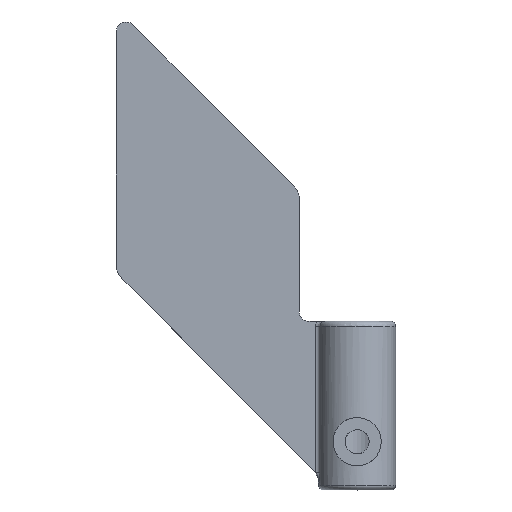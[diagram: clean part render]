
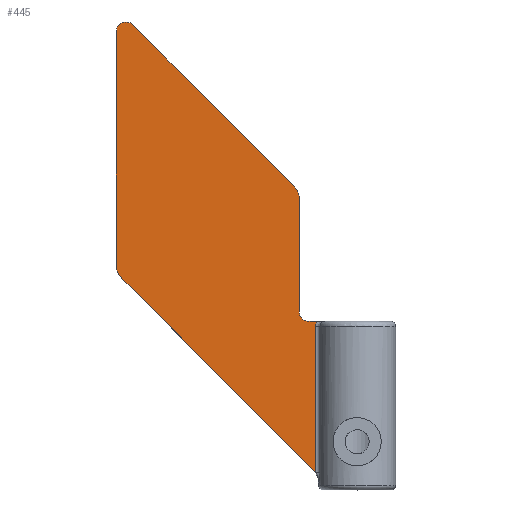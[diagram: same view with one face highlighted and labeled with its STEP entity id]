
A CAD part, top view. The second image highlights one B-rep face of the part: STEP entity #445.
In plain terms, the highlighted planar face has unit normal (0, 0, 1).
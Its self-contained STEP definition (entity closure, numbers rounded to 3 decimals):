
#24=PLANE('',#495);
#34=LINE('',#752,#59);
#35=LINE('',#788,#60);
#36=LINE('',#792,#61);
#37=LINE('',#796,#62);
#38=LINE('',#800,#63);
#39=LINE('',#804,#64);
#59=VECTOR('',#549,10.);
#60=VECTOR('',#552,10.);
#61=VECTOR('',#555,10.);
#62=VECTOR('',#558,10.);
#63=VECTOR('',#561,10.);
#64=VECTOR('',#564,10.);
#97=FACE_OUTER_BOUND('',#124,.T.);
#124=EDGE_LOOP('',(#314,#315,#316,#317,#318,#319,#320,#321,#322,#323,#324,
#325));
#155=B_SPLINE_CURVE_WITH_KNOTS('',3,(#743,#744,#745,#746),.UNSPECIFIED.,
 .F.,.F.,(4,4),(1.2,1.305),.UNSPECIFIED.);
#158=B_SPLINE_CURVE_WITH_KNOTS('',3,(#805,#806,#807,#808,#809,#810,#811),
 .UNSPECIFIED.,.F.,.F.,(4,3,4),(0.261,0.298,0.328),
 .UNSPECIFIED.);
#171=CIRCLE('',#496,2.);
#172=CIRCLE('',#497,4.);
#173=CIRCLE('',#498,2.);
#174=CIRCLE('',#499,4.);
#193=VERTEX_POINT('',#694);
#196=VERTEX_POINT('',#732);
#197=VERTEX_POINT('',#748);
#200=VERTEX_POINT('',#787);
#201=VERTEX_POINT('',#789);
#202=VERTEX_POINT('',#791);
#203=VERTEX_POINT('',#793);
#204=VERTEX_POINT('',#795);
#205=VERTEX_POINT('',#797);
#206=VERTEX_POINT('',#799);
#207=VERTEX_POINT('',#801);
#208=VERTEX_POINT('',#803);
#239=EDGE_CURVE('',#196,#193,#155,.T.);
#242=EDGE_CURVE('',#193,#197,#34,.T.);
#245=EDGE_CURVE('',#200,#196,#35,.T.);
#246=EDGE_CURVE('',#201,#200,#171,.T.);
#247=EDGE_CURVE('',#202,#201,#36,.T.);
#248=EDGE_CURVE('',#203,#202,#172,.T.);
#249=EDGE_CURVE('',#204,#203,#37,.T.);
#250=EDGE_CURVE('',#205,#204,#173,.T.);
#251=EDGE_CURVE('',#206,#205,#38,.T.);
#252=EDGE_CURVE('',#207,#206,#174,.T.);
#253=EDGE_CURVE('',#208,#207,#39,.T.);
#254=EDGE_CURVE('',#197,#208,#158,.T.);
#314=ORIENTED_EDGE('',*,*,#242,.F.);
#315=ORIENTED_EDGE('',*,*,#239,.F.);
#316=ORIENTED_EDGE('',*,*,#245,.F.);
#317=ORIENTED_EDGE('',*,*,#246,.F.);
#318=ORIENTED_EDGE('',*,*,#247,.F.);
#319=ORIENTED_EDGE('',*,*,#248,.F.);
#320=ORIENTED_EDGE('',*,*,#249,.F.);
#321=ORIENTED_EDGE('',*,*,#250,.F.);
#322=ORIENTED_EDGE('',*,*,#251,.F.);
#323=ORIENTED_EDGE('',*,*,#252,.F.);
#324=ORIENTED_EDGE('',*,*,#253,.F.);
#325=ORIENTED_EDGE('',*,*,#254,.F.);
#445=ADVANCED_FACE('',(#97),#24,.T.);
#495=AXIS2_PLACEMENT_3D('',#786,#550,#551);
#496=AXIS2_PLACEMENT_3D('',#790,#553,#554);
#497=AXIS2_PLACEMENT_3D('',#794,#556,#557);
#498=AXIS2_PLACEMENT_3D('',#798,#559,#560);
#499=AXIS2_PLACEMENT_3D('',#802,#562,#563);
#549=DIRECTION('',(0.,-1.,0.));
#550=DIRECTION('center_axis',(0.,0.,1.));
#551=DIRECTION('ref_axis',(1.,0.,0.));
#552=DIRECTION('',(1.,0.,0.));
#553=DIRECTION('center_axis',(0.,0.,1.));
#554=DIRECTION('ref_axis',(1.,0.,0.));
#555=DIRECTION('',(0.,-1.,0.));
#556=DIRECTION('center_axis',(0.,0.,-1.));
#557=DIRECTION('ref_axis',(1.,0.,0.));
#558=DIRECTION('',(0.707,-0.707,0.));
#559=DIRECTION('center_axis',(0.,0.,-1.));
#560=DIRECTION('ref_axis',(0.707,0.707,0.));
#561=DIRECTION('',(0.,1.,0.));
#562=DIRECTION('center_axis',(0.,0.,-1.));
#563=DIRECTION('ref_axis',(-1.,0.,0.));
#564=DIRECTION('',(-0.707,0.707,0.));
#694=CARTESIAN_POINT('',(-8.646,34.,1.5));
#732=CARTESIAN_POINT('',(-8.367,35.,1.5));
#743=CARTESIAN_POINT('Ctrl Pts',(-8.365,34.999,1.5));
#744=CARTESIAN_POINT('Ctrl Pts',(-8.545,34.699,1.5));
#745=CARTESIAN_POINT('Ctrl Pts',(-8.646,34.35,1.5));
#746=CARTESIAN_POINT('Ctrl Pts',(-8.646,34.,1.5));
#748=CARTESIAN_POINT('',(-8.646,3.57,1.5));
#752=CARTESIAN_POINT('',(-8.646,2.,1.5));
#786=CARTESIAN_POINT('Origin',(-6.964,18.19,1.5));
#787=CARTESIAN_POINT('',(-10.,35.,1.5));
#788=CARTESIAN_POINT('',(-5.,35.,1.5));
#789=CARTESIAN_POINT('',(-12.,37.,1.5));
#790=CARTESIAN_POINT('Origin',(-10.,37.,1.5));
#791=CARTESIAN_POINT('',(-12.,60.343,1.5));
#792=CARTESIAN_POINT('',(-12.,37.,1.5));
#793=CARTESIAN_POINT('',(-13.172,63.172,1.5));
#794=CARTESIAN_POINT('Origin',(-16.,60.343,1.5));
#795=CARTESIAN_POINT('',(-46.586,96.586,1.5));
#796=CARTESIAN_POINT('',(-13.172,63.172,1.5));
#797=CARTESIAN_POINT('',(-50.,95.172,1.5));
#798=CARTESIAN_POINT('Origin',(-48.,95.172,1.5));
#799=CARTESIAN_POINT('',(-50.,46.657,1.5));
#800=CARTESIAN_POINT('',(-50.,95.172,1.5));
#801=CARTESIAN_POINT('',(-48.828,43.828,1.5));
#802=CARTESIAN_POINT('Origin',(-46.,46.657,1.5));
#803=CARTESIAN_POINT('',(-9.077,4.077,1.5));
#804=CARTESIAN_POINT('',(-48.828,43.828,1.5));
#805=CARTESIAN_POINT('Ctrl Pts',(-8.647,3.569,1.5));
#806=CARTESIAN_POINT('Ctrl Pts',(-8.72,3.67,1.5));
#807=CARTESIAN_POINT('Ctrl Pts',(-8.797,3.768,1.5));
#808=CARTESIAN_POINT('Ctrl Pts',(-8.878,3.863,1.5));
#809=CARTESIAN_POINT('Ctrl Pts',(-8.942,3.937,1.5));
#810=CARTESIAN_POINT('Ctrl Pts',(-9.008,4.008,1.5));
#811=CARTESIAN_POINT('Ctrl Pts',(-9.077,4.077,1.5));
